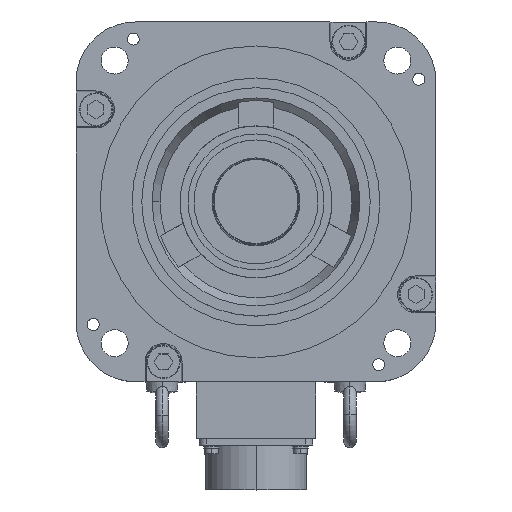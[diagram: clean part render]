
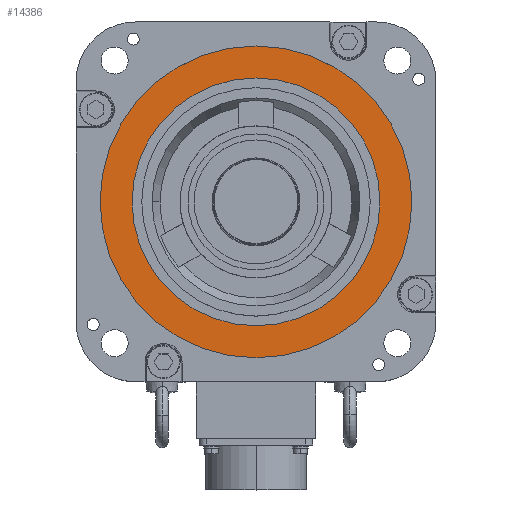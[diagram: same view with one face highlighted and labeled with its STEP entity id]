
A CAD part, top view. The second image highlights one B-rep face of the part: STEP entity #14386.
In plain terms, the highlighted planar face has unit normal (0, 0, 1).
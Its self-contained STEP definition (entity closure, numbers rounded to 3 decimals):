
#4942 = DIRECTION ( 'NONE',  ( 1., 0., 0. ) ) ;
#4943 = DIRECTION ( 'NONE',  ( 0., 0., 1. ) ) ;
#4944 = CARTESIAN_POINT ( 'NONE',  ( 0., 0., -0.5 ) ) ;
#4945 = AXIS2_PLACEMENT_3D ( 'NONE', #4944, #4943, #4942 ) ;
#4946 = CIRCLE ( 'NONE', #4945, 62. ) ;
#4987 = CARTESIAN_POINT ( 'NONE',  ( -62., 0., -0.5 ) ) ;
#5038 = CARTESIAN_POINT ( 'NONE',  ( 62., 0., -0.5 ) ) ;
#5291 = CARTESIAN_POINT ( 'NONE',  ( 78., 0., -0.5 ) ) ;
#5292 = DIRECTION ( 'NONE',  ( 1., 0., 0. ) ) ;
#5293 = DIRECTION ( 'NONE',  ( 0., 0., 1. ) ) ;
#5294 = CARTESIAN_POINT ( 'NONE',  ( 0., 0., -0.5 ) ) ;
#5295 = AXIS2_PLACEMENT_3D ( 'NONE', #5294, #5293, #5292 ) ;
#5296 = CIRCLE ( 'NONE', #5295, 78. ) ;
#5304 = CARTESIAN_POINT ( 'NONE',  ( -78., 0., -0.5 ) ) ;
#14075 = ORIENTED_EDGE ( 'NONE', *, *, #16502, .F. ) ;
#14178 = ORIENTED_EDGE ( 'NONE', *, *, #16661, .T. ) ;
#14258 = ORIENTED_EDGE ( 'NONE', *, *, #14259, .F. ) ;
#14259 = EDGE_CURVE ( 'NONE', #16536, #16566, #29094, .T. ) ;
#14261 = EDGE_LOOP ( 'NONE', ( #14258, #14075 ) ) ;
#14330 = EDGE_LOOP ( 'NONE', ( #14331, #14178 ) ) ;
#14331 = ORIENTED_EDGE ( 'NONE', *, *, #14337, .T. ) ;
#14337 = EDGE_CURVE ( 'NONE', #16662, #16657, #29226, .T. ) ;
#14386 = ADVANCED_FACE ( 'NONE', ( #29278, #29277 ), #29284, .T. ) ;
#16502 = EDGE_CURVE ( 'NONE', #16566, #16536, #4946, .T. ) ;
#16536 = VERTEX_POINT ( 'NONE', #4987 ) ;
#16566 = VERTEX_POINT ( 'NONE', #5038 ) ;
#16657 = VERTEX_POINT ( 'NONE', #5304 ) ;
#16661 = EDGE_CURVE ( 'NONE', #16657, #16662, #5296, .T. ) ;
#16662 = VERTEX_POINT ( 'NONE', #5291 ) ;
#29086 = DIRECTION ( 'NONE',  ( 1., 0., 0. ) ) ;
#29087 = DIRECTION ( 'NONE',  ( 0., 0., 1. ) ) ;
#29088 = CARTESIAN_POINT ( 'NONE',  ( 0., 0., -0.5 ) ) ;
#29089 = AXIS2_PLACEMENT_3D ( 'NONE', #29088, #29087, #29086 ) ;
#29094 = CIRCLE ( 'NONE', #29089, 62. ) ;
#29223 = DIRECTION ( 'NONE',  ( 1., 0., 0. ) ) ;
#29224 = DIRECTION ( 'NONE',  ( 0., 0., 1. ) ) ;
#29225 = AXIS2_PLACEMENT_3D ( 'NONE', #29230, #29224, #29223 ) ;
#29226 = CIRCLE ( 'NONE', #29225, 78. ) ;
#29230 = CARTESIAN_POINT ( 'NONE',  ( 0., 0., -0.5 ) ) ;
#29273 = DIRECTION ( 'NONE',  ( 1., 0., 0. ) ) ;
#29274 = DIRECTION ( 'NONE',  ( 0., 0., 1. ) ) ;
#29275 = CARTESIAN_POINT ( 'NONE',  ( 0., 0., -0.5 ) ) ;
#29276 = AXIS2_PLACEMENT_3D ( 'NONE', #29275, #29274, #29273 ) ;
#29277 = FACE_BOUND ( 'NONE', #14261, .T. ) ;
#29278 = FACE_OUTER_BOUND ( 'NONE', #14330, .T. ) ;
#29284 = PLANE ( 'NONE',  #29276 ) ;
